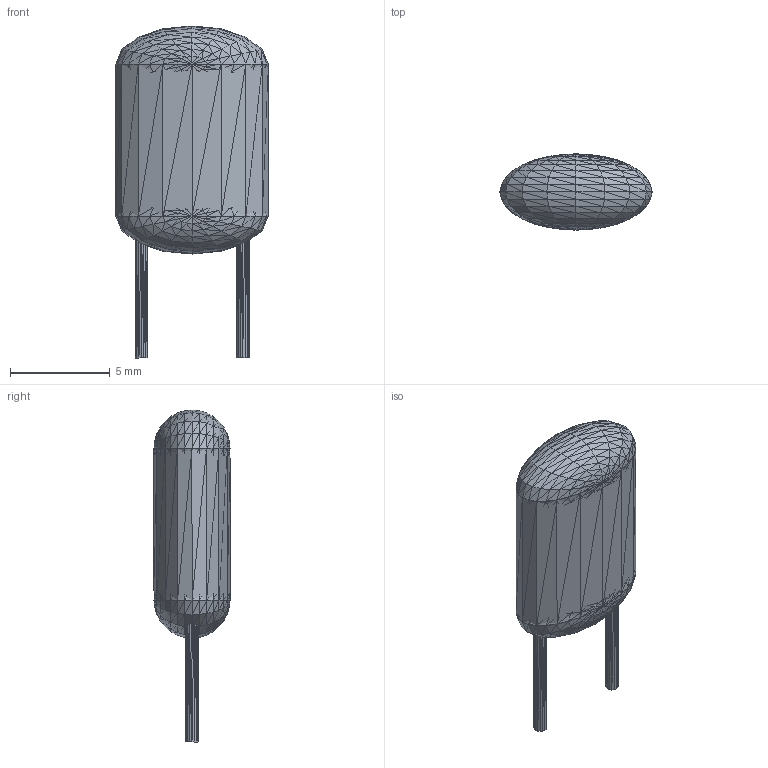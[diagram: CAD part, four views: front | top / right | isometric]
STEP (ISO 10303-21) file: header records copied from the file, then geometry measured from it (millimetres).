
FILE_DESCRIPTION(('HOOPS Exchange Step'),'2;1');
FILE_NAME('***.stp');
FILE_SCHEMA( ('AP242_MANAGED_MODEL_BASED_3D_ENGINEERING_MIM_LF {1 0 10303 442 1 1 4 }') );
Length unit declared in the file: inch
Products named in the file (6): CAP450X300MIL_2; CAP450X300MIL_3; CAP450X300MIL_4; CAP450X300MIL_5; CAP450X300MIL_6; CAP450X300MIL
Assembly tree (5 placements, depth 2):
  CAP450X300MIL
    CAP450X300MIL_2
    CAP450X300MIL_3
    CAP450X300MIL_4
    CAP450X300MIL_5
    CAP450X300MIL_6
Bounding box: 7.62 x 3.81 x 16.64 mm (x, y, z)
Volume: 285.8 mm3; surface area: 368.5 mm2
Topology: 5 solids, 5 shells, 1152 faces, 1728 edges, 586 vertices
Faces by surface type: plane 1152
Entity records: 22736 total; most frequent: DIRECTION 4056, CARTESIAN_POINT 3478, ORIENTED_EDGE 3456, VECTOR 1728, LINE 1728, EDGE_CURVE 1728, AXIS2_PLACEMENT_3D 1164, PLANE 1152
